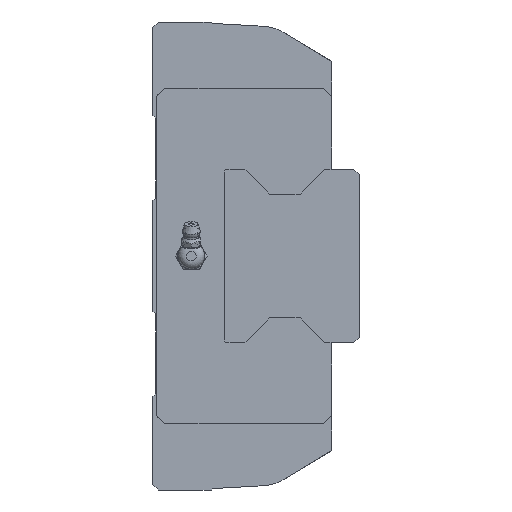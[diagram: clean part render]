
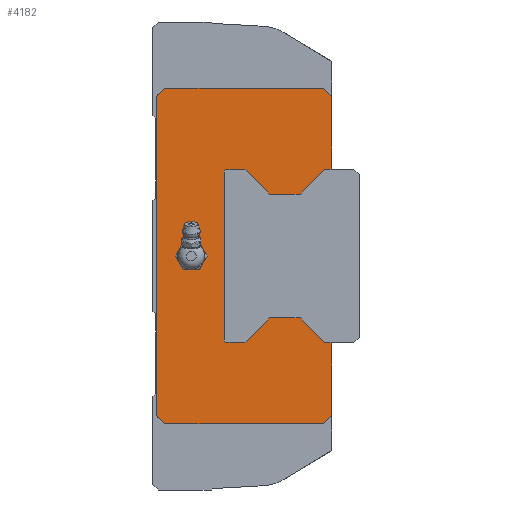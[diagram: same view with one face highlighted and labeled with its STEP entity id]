
A CAD part, left-side view. The second image highlights one B-rep face of the part: STEP entity #4182.
In plain terms, the highlighted planar face has unit normal (-1, 0, 0).
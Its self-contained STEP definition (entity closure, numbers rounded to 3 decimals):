
#246=CIRCLE('',#4555,4.864);
#247=CIRCLE('',#4556,1.);
#248=CIRCLE('',#4557,1.);
#723=ORIENTED_EDGE('',*,*,#1681,.T.);
#724=ORIENTED_EDGE('',*,*,#1682,.T.);
#725=ORIENTED_EDGE('',*,*,#1670,.F.);
#726=ORIENTED_EDGE('',*,*,#1630,.F.);
#727=ORIENTED_EDGE('',*,*,#1626,.F.);
#728=ORIENTED_EDGE('',*,*,#1618,.F.);
#729=ORIENTED_EDGE('',*,*,#1658,.F.);
#730=ORIENTED_EDGE('',*,*,#1603,.F.);
#731=ORIENTED_EDGE('',*,*,#1641,.F.);
#732=ORIENTED_EDGE('',*,*,#1638,.F.);
#733=ORIENTED_EDGE('',*,*,#1672,.F.);
#734=ORIENTED_EDGE('',*,*,#1683,.T.);
#735=ORIENTED_EDGE('',*,*,#1684,.T.);
#736=ORIENTED_EDGE('',*,*,#1685,.T.);
#737=ORIENTED_EDGE('',*,*,#1686,.T.);
#738=ORIENTED_EDGE('',*,*,#1687,.T.);
#739=ORIENTED_EDGE('',*,*,#1688,.T.);
#740=ORIENTED_EDGE('',*,*,#1689,.T.);
#741=ORIENTED_EDGE('',*,*,#1690,.T.);
#742=ORIENTED_EDGE('',*,*,#1648,.T.);
#743=ORIENTED_EDGE('',*,*,#1691,.T.);
#744=ORIENTED_EDGE('',*,*,#1692,.T.);
#745=ORIENTED_EDGE('',*,*,#1693,.T.);
#746=ORIENTED_EDGE('',*,*,#1694,.T.);
#747=ORIENTED_EDGE('',*,*,#1695,.T.);
#748=ORIENTED_EDGE('',*,*,#1696,.T.);
#749=ORIENTED_EDGE('',*,*,#1697,.T.);
#1603=EDGE_CURVE('',#2132,#2133,#2498,.T.);
#1618=EDGE_CURVE('',#2147,#2148,#2513,.T.);
#1626=EDGE_CURVE('',#2148,#2154,#2520,.T.);
#1630=EDGE_CURVE('',#2154,#2156,#2524,.T.);
#1638=EDGE_CURVE('',#2163,#2164,#2532,.T.);
#1641=EDGE_CURVE('',#2164,#2132,#2535,.T.);
#1648=EDGE_CURVE('',#2167,#2169,#2541,.T.);
#1658=EDGE_CURVE('',#2133,#2147,#2547,.T.);
#1670=EDGE_CURVE('',#2156,#2175,#2557,.T.);
#1672=EDGE_CURVE('',#2182,#2163,#2559,.T.);
#1681=EDGE_CURVE('',#2190,#2190,#246,.T.);
#1682=EDGE_CURVE('',#2191,#2175,#2566,.T.);
#1683=EDGE_CURVE('',#2182,#2192,#2567,.T.);
#1684=EDGE_CURVE('',#2192,#2193,#2568,.T.);
#1685=EDGE_CURVE('',#2193,#2194,#2569,.T.);
#1686=EDGE_CURVE('',#2194,#2195,#2570,.T.);
#1687=EDGE_CURVE('',#2195,#2196,#2571,.T.);
#1688=EDGE_CURVE('',#2196,#2197,#2572,.T.);
#1689=EDGE_CURVE('',#2197,#2198,#2573,.T.);
#1690=EDGE_CURVE('',#2198,#2167,#247,.T.);
#1691=EDGE_CURVE('',#2169,#2199,#248,.T.);
#1692=EDGE_CURVE('',#2199,#2200,#2574,.T.);
#1693=EDGE_CURVE('',#2200,#2201,#2575,.T.);
#1694=EDGE_CURVE('',#2201,#2202,#2576,.T.);
#1695=EDGE_CURVE('',#2202,#2203,#2577,.T.);
#1696=EDGE_CURVE('',#2203,#2204,#2578,.T.);
#1697=EDGE_CURVE('',#2204,#2191,#2579,.T.);
#2132=VERTEX_POINT('',#6390);
#2133=VERTEX_POINT('',#6392);
#2147=VERTEX_POINT('',#6421);
#2148=VERTEX_POINT('',#6423);
#2154=VERTEX_POINT('',#6439);
#2156=VERTEX_POINT('',#6446);
#2163=VERTEX_POINT('',#6461);
#2164=VERTEX_POINT('',#6463);
#2167=VERTEX_POINT('',#6476);
#2169=VERTEX_POINT('',#6480);
#2175=VERTEX_POINT('',#6507);
#2182=VERTEX_POINT('',#6525);
#2190=VERTEX_POINT('',#6544);
#2191=VERTEX_POINT('',#6546);
#2192=VERTEX_POINT('',#6548);
#2193=VERTEX_POINT('',#6550);
#2194=VERTEX_POINT('',#6552);
#2195=VERTEX_POINT('',#6554);
#2196=VERTEX_POINT('',#6556);
#2197=VERTEX_POINT('',#6558);
#2198=VERTEX_POINT('',#6560);
#2199=VERTEX_POINT('',#6563);
#2200=VERTEX_POINT('',#6565);
#2201=VERTEX_POINT('',#6567);
#2202=VERTEX_POINT('',#6569);
#2203=VERTEX_POINT('',#6571);
#2204=VERTEX_POINT('',#6573);
#2498=LINE('',#6391,#2866);
#2513=LINE('',#6422,#2881);
#2520=LINE('',#6438,#2888);
#2524=LINE('',#6445,#2892);
#2532=LINE('',#6462,#2900);
#2535=LINE('',#6467,#2903);
#2541=LINE('',#6481,#2909);
#2547=LINE('',#6500,#2915);
#2557=LINE('',#6522,#2925);
#2559=LINE('',#6527,#2927);
#2566=LINE('',#6545,#2934);
#2567=LINE('',#6547,#2935);
#2568=LINE('',#6549,#2936);
#2569=LINE('',#6551,#2937);
#2570=LINE('',#6553,#2938);
#2571=LINE('',#6555,#2939);
#2572=LINE('',#6557,#2940);
#2573=LINE('',#6559,#2941);
#2574=LINE('',#6564,#2942);
#2575=LINE('',#6566,#2943);
#2576=LINE('',#6568,#2944);
#2577=LINE('',#6570,#2945);
#2578=LINE('',#6572,#2946);
#2579=LINE('',#6574,#2947);
#2866=VECTOR('',#5202,1000.);
#2881=VECTOR('',#5219,1000.);
#2888=VECTOR('',#5232,1000.);
#2892=VECTOR('',#5238,1000.);
#2900=VECTOR('',#5248,1000.);
#2903=VECTOR('',#5253,1000.);
#2909=VECTOR('',#5265,1000.);
#2915=VECTOR('',#5289,1000.);
#2925=VECTOR('',#5307,1000.);
#2927=VECTOR('',#5311,1000.);
#2934=VECTOR('',#5326,1000.);
#2935=VECTOR('',#5327,1000.);
#2936=VECTOR('',#5328,1000.);
#2937=VECTOR('',#5329,1000.);
#2938=VECTOR('',#5330,1000.);
#2939=VECTOR('',#5331,1000.);
#2940=VECTOR('',#5332,1000.);
#2941=VECTOR('',#5333,1000.);
#2942=VECTOR('',#5338,1000.);
#2943=VECTOR('',#5339,1000.);
#2944=VECTOR('',#5340,1000.);
#2945=VECTOR('',#5341,1000.);
#2946=VECTOR('',#5342,1000.);
#2947=VECTOR('',#5343,1000.);
#3323=EDGE_LOOP('',(#723));
#3324=EDGE_LOOP('',(#724,#725,#726,#727,#728,#729,#730,#731,#732,#733,#734,
#735,#736,#737,#738,#739,#740,#741,#742,#743,#744,#745,#746,#747,#748,#749));
#3716=FACE_BOUND('',#3323,.T.);
#3717=FACE_BOUND('',#3324,.T.);
#3982=PLANE('',#4554);
#4182=ADVANCED_FACE('',(#3716,#3717),#3982,.F.);
#4554=AXIS2_PLACEMENT_3D('',#6542,#5322,#5323);
#4555=AXIS2_PLACEMENT_3D('',#6543,#5324,#5325);
#4556=AXIS2_PLACEMENT_3D('',#6561,#5334,#5335);
#4557=AXIS2_PLACEMENT_3D('',#6562,#5336,#5337);
#5202=DIRECTION('',(0.,0.707,0.707));
#5219=DIRECTION('',(0.,-0.707,0.707));
#5232=DIRECTION('',(0.,-1.,0.));
#5238=DIRECTION('',(0.,-0.707,-0.707));
#5248=DIRECTION('',(0.,0.707,-0.707));
#5253=DIRECTION('',(0.,1.,0.));
#5265=DIRECTION('',(0.,0.,1.));
#5289=DIRECTION('',(0.,0.,1.));
#5307=DIRECTION('',(0.,0.,-1.));
#5311=DIRECTION('',(0.,0.,-1.));
#5322=DIRECTION('',(1.,0.,0.));
#5323=DIRECTION('',(0.,0.,-1.));
#5324=DIRECTION('',(1.,0.,0.));
#5325=DIRECTION('',(0.,0.,-1.));
#5326=DIRECTION('',(0.,-1.,0.));
#5327=DIRECTION('',(0.,1.,0.));
#5328=DIRECTION('',(0.,0.707,0.707));
#5329=DIRECTION('',(0.,1.,0.));
#5330=DIRECTION('',(0.,0.707,-0.707));
#5331=DIRECTION('',(0.,1.,0.));
#5332=DIRECTION('',(0.,0.707,0.707));
#5333=DIRECTION('',(0.,1.,0.));
#5334=DIRECTION('',(1.,0.,0.));
#5335=DIRECTION('',(0.,0.,-1.));
#5336=DIRECTION('',(1.,0.,0.));
#5337=DIRECTION('',(0.,0.,-1.));
#5338=DIRECTION('',(0.,-1.,0.));
#5339=DIRECTION('',(0.,-0.707,0.707));
#5340=DIRECTION('',(0.,-1.,0.));
#5341=DIRECTION('',(0.,-0.707,-0.707));
#5342=DIRECTION('',(0.,-1.,0.));
#5343=DIRECTION('',(0.,-0.707,0.707));
#6390=CARTESIAN_POINT('',(-151.5,60.6,-61.));
#6391=CARTESIAN_POINT('',(-151.5,60.6,-61.));
#6392=CARTESIAN_POINT('',(-151.5,63.6,-58.));
#6421=CARTESIAN_POINT('',(-151.5,63.6,58.));
#6422=CARTESIAN_POINT('',(-151.5,63.6,58.));
#6423=CARTESIAN_POINT('',(-151.5,60.6,61.));
#6438=CARTESIAN_POINT('',(-151.5,60.6,61.));
#6439=CARTESIAN_POINT('',(-151.5,3.,61.));
#6445=CARTESIAN_POINT('',(-151.5,3.,61.));
#6446=CARTESIAN_POINT('',(-151.5,0.,58.));
#6461=CARTESIAN_POINT('',(-151.5,0.,-58.));
#6462=CARTESIAN_POINT('',(-151.5,0.,-58.));
#6463=CARTESIAN_POINT('',(-151.5,3.,-61.));
#6467=CARTESIAN_POINT('',(-151.5,3.,-61.));
#6476=CARTESIAN_POINT('',(-151.5,39.,-30.5));
#6480=CARTESIAN_POINT('',(-151.5,39.,30.5));
#6481=CARTESIAN_POINT('',(-151.5,39.,-30.5));
#6500=CARTESIAN_POINT('',(-151.5,63.6,-58.));
#6507=CARTESIAN_POINT('',(-151.5,0.,31.5));
#6522=CARTESIAN_POINT('',(-151.5,0.,58.));
#6525=CARTESIAN_POINT('',(-151.5,0.,-31.5));
#6527=CARTESIAN_POINT('',(-151.5,0.,58.));
#6542=CARTESIAN_POINT('',(-151.5,0.,0.));
#6543=CARTESIAN_POINT('',(-151.5,51.,0.));
#6544=CARTESIAN_POINT('',(-151.5,51.,-4.864));
#6545=CARTESIAN_POINT('',(-151.5,2.5,31.5));
#6546=CARTESIAN_POINT('',(-151.5,2.5,31.5));
#6547=CARTESIAN_POINT('',(-151.5,-8.,-31.5));
#6548=CARTESIAN_POINT('',(-151.5,2.5,-31.5));
#6549=CARTESIAN_POINT('',(-151.5,2.5,-31.5));
#6550=CARTESIAN_POINT('',(-151.5,11.5,-22.5));
#6551=CARTESIAN_POINT('',(-151.5,11.5,-22.5));
#6552=CARTESIAN_POINT('',(-151.5,22.5,-22.5));
#6553=CARTESIAN_POINT('',(-151.5,22.5,-22.5));
#6554=CARTESIAN_POINT('',(-151.5,31.5,-31.5));
#6555=CARTESIAN_POINT('',(-151.5,31.5,-31.5));
#6556=CARTESIAN_POINT('',(-151.5,36.26,-31.5));
#6557=CARTESIAN_POINT('',(-151.5,36.26,-31.5));
#6558=CARTESIAN_POINT('',(-151.5,36.51,-31.25));
#6559=CARTESIAN_POINT('',(-151.5,36.51,-31.25));
#6560=CARTESIAN_POINT('',(-151.5,37.339,-31.25));
#6561=CARTESIAN_POINT('',(-151.5,38.,-30.5));
#6562=CARTESIAN_POINT('',(-151.5,38.,30.5));
#6563=CARTESIAN_POINT('',(-151.5,37.339,31.25));
#6564=CARTESIAN_POINT('',(-151.5,37.339,31.25));
#6565=CARTESIAN_POINT('',(-151.5,36.51,31.25));
#6566=CARTESIAN_POINT('',(-151.5,36.51,31.25));
#6567=CARTESIAN_POINT('',(-151.5,36.26,31.5));
#6568=CARTESIAN_POINT('',(-151.5,36.26,31.5));
#6569=CARTESIAN_POINT('',(-151.5,31.5,31.5));
#6570=CARTESIAN_POINT('',(-151.5,31.5,31.5));
#6571=CARTESIAN_POINT('',(-151.5,22.5,22.5));
#6572=CARTESIAN_POINT('',(-151.5,22.5,22.5));
#6573=CARTESIAN_POINT('',(-151.5,11.5,22.5));
#6574=CARTESIAN_POINT('',(-151.5,11.5,22.5));
